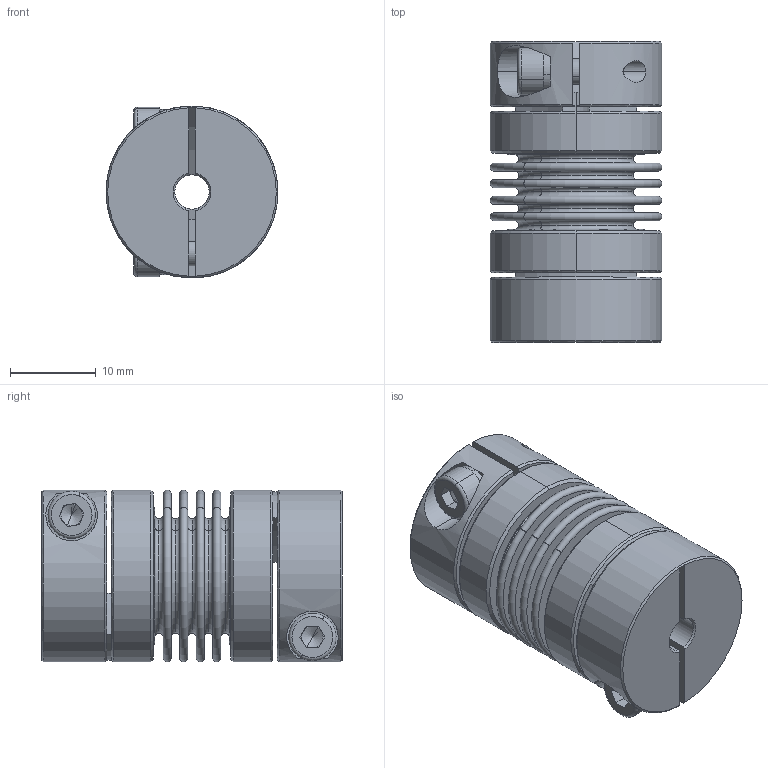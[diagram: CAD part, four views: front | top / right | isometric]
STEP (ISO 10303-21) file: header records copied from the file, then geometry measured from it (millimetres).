
FILE_DESCRIPTION (( 'STEP AP203' ), '1' );
FILE_NAME ('LB-B-D20L34-4-5.STEP', '2021-11-04T01:37:27', ( '' ), ( '' ), 'SwSTEP 2.0', 'SolidWorks 2018', '' );
FILE_SCHEMA (( 'CONFIG_CONTROL_DESIGN' ));
Length unit declared in the file: millimetre
Products named in the file (2): LB-B-D20L34-4-5; 零件4^LB-B-D20L34 波纹管联轴器-组装体
Assembly tree (1 placements, depth 2):
  LB-B-D20L34-4-5
    零件4^LB-B-D20L34 波纹管联轴器-组装体
Bounding box: 20 x 35 x 20 mm (x, y, z)
Volume: 6362.2 mm3; surface area: 9596.9 mm2
Topology: 1 solids, 1 shells, 246 faces, 578 edges, 358 vertices
Faces by surface type: plane 82, torus 68, cylinder 62, cone 34
Entity records: 7554 total; most frequent: CARTESIAN_POINT 1494, DIRECTION 1382, ORIENTED_EDGE 1148, AXIS2_PLACEMENT_3D 606, EDGE_CURVE 574, VERTEX_POINT 358, CIRCLE 356, EDGE_LOOP 288
